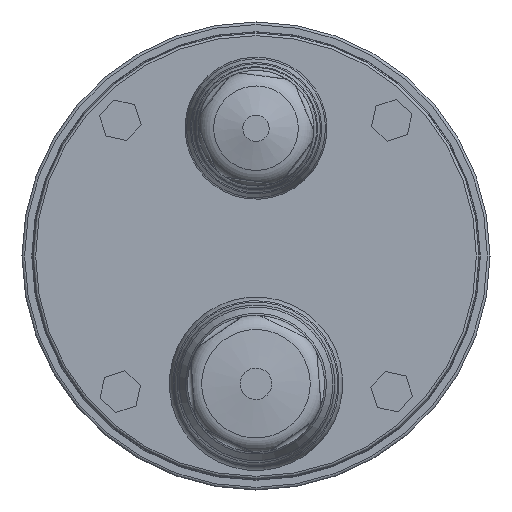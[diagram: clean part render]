
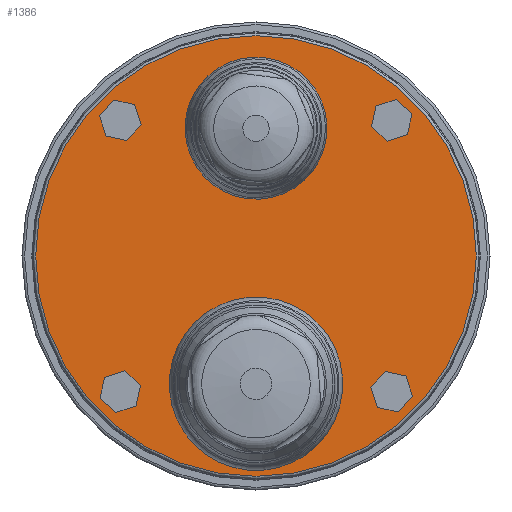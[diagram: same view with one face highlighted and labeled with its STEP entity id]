
A CAD part, front view. The second image highlights one B-rep face of the part: STEP entity #1386.
In plain terms, the highlighted planar face has unit normal (0, -1, 0).
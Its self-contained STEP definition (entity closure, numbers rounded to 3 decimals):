
#151=CARTESIAN_POINT('',(8.0,41.245,24.3));
#152=VERTEX_POINT('',#151);
#153=CARTESIAN_POINT('',(0.0,41.245,24.3));
#154=DIRECTION('',(0.0,1.0,0.0));
#155=DIRECTION('',(1.0,0.0,0.0));
#156=AXIS2_PLACEMENT_3D('',#153,#154,#155);
#157=CIRCLE('',#156,8.0);
#158=EDGE_CURVE('',#152,#152,#157,.T.);
#188=CARTESIAN_POINT('',(10.,41.245,-24.3));
#189=VERTEX_POINT('',#188);
#190=CARTESIAN_POINT('',(0.,41.245,-24.3));
#191=DIRECTION('',(0.0,1.0,0.0));
#192=DIRECTION('',(1.0,0.0,0.0));
#193=AXIS2_PLACEMENT_3D('',#190,#191,#192);
#194=CIRCLE('',#193,10.0);
#195=EDGE_CURVE('',#189,#189,#194,.T.);
#235=CARTESIAN_POINT('',(27.07,41.245,-29.649));
#236=VERTEX_POINT('',#235);
#243=CARTESIAN_POINT('',(29.765,41.245,-26.638));
#244=VERTEX_POINT('',#243);
#245=CARTESIAN_POINT('',(29.765,41.245,-26.638));
#246=DIRECTION('',(-0.667,0.0,-0.745));
#247=VECTOR('',#246,4.041);
#248=LINE('',#245,#247);
#249=EDGE_CURVE('',#244,#236,#248,.T.);
#273=CARTESIAN_POINT('',(23.114,41.245,-28.821));
#274=VERTEX_POINT('',#273);
#281=CARTESIAN_POINT('',(27.07,41.245,-29.649));
#282=DIRECTION('',(-0.979,0.0,0.205));
#283=VECTOR('',#282,4.041);
#284=LINE('',#281,#283);
#285=EDGE_CURVE('',#236,#274,#284,.T.);
#304=CARTESIAN_POINT('',(21.854,41.245,-24.981));
#305=VERTEX_POINT('',#304);
#312=CARTESIAN_POINT('',(23.114,41.245,-28.821));
#313=DIRECTION('',(-0.312,0.0,0.95));
#314=VECTOR('',#313,4.041);
#315=LINE('',#312,#314);
#316=EDGE_CURVE('',#274,#305,#315,.T.);
#335=CARTESIAN_POINT('',(24.549,41.245,-21.97));
#336=VERTEX_POINT('',#335);
#343=CARTESIAN_POINT('',(21.854,41.245,-24.981));
#344=DIRECTION('',(0.667,0.0,0.745));
#345=VECTOR('',#344,4.041);
#346=LINE('',#343,#345);
#347=EDGE_CURVE('',#305,#336,#346,.T.);
#366=CARTESIAN_POINT('',(28.505,41.245,-22.798));
#367=VERTEX_POINT('',#366);
#374=CARTESIAN_POINT('',(24.549,41.245,-21.97));
#375=DIRECTION('',(0.979,0.0,-0.205));
#376=VECTOR('',#375,4.041);
#377=LINE('',#374,#376);
#378=EDGE_CURVE('',#336,#367,#377,.T.);
#396=CARTESIAN_POINT('',(28.505,41.245,-22.798));
#397=DIRECTION('',(0.312,0.0,-0.95));
#398=VECTOR('',#397,4.041);
#399=LINE('',#396,#398);
#400=EDGE_CURVE('',#367,#244,#399,.T.);
#435=CARTESIAN_POINT('',(-29.649,41.245,-27.07));
#436=VERTEX_POINT('',#435);
#443=CARTESIAN_POINT('',(-26.638,41.245,-29.765));
#444=VERTEX_POINT('',#443);
#445=CARTESIAN_POINT('',(-26.638,41.245,-29.765));
#446=DIRECTION('',(-0.745,0.0,0.667));
#447=VECTOR('',#446,4.041);
#448=LINE('',#445,#447);
#449=EDGE_CURVE('',#444,#436,#448,.T.);
#473=CARTESIAN_POINT('',(-28.821,41.245,-23.114));
#474=VERTEX_POINT('',#473);
#481=CARTESIAN_POINT('',(-29.649,41.245,-27.07));
#482=DIRECTION('',(0.205,0.0,0.979));
#483=VECTOR('',#482,4.041);
#484=LINE('',#481,#483);
#485=EDGE_CURVE('',#436,#474,#484,.T.);
#504=CARTESIAN_POINT('',(-24.981,41.245,-21.854));
#505=VERTEX_POINT('',#504);
#512=CARTESIAN_POINT('',(-28.821,41.245,-23.114));
#513=DIRECTION('',(0.95,0.0,0.312));
#514=VECTOR('',#513,4.041);
#515=LINE('',#512,#514);
#516=EDGE_CURVE('',#474,#505,#515,.T.);
#535=CARTESIAN_POINT('',(-21.97,41.245,-24.549));
#536=VERTEX_POINT('',#535);
#543=CARTESIAN_POINT('',(-24.981,41.245,-21.854));
#544=DIRECTION('',(0.745,0.0,-0.667));
#545=VECTOR('',#544,4.041);
#546=LINE('',#543,#545);
#547=EDGE_CURVE('',#505,#536,#546,.T.);
#566=CARTESIAN_POINT('',(-22.798,41.245,-28.505));
#567=VERTEX_POINT('',#566);
#574=CARTESIAN_POINT('',(-21.97,41.245,-24.549));
#575=DIRECTION('',(-0.205,0.0,-0.979));
#576=VECTOR('',#575,4.041);
#577=LINE('',#574,#576);
#578=EDGE_CURVE('',#536,#567,#577,.T.);
#596=CARTESIAN_POINT('',(-22.798,41.245,-28.505));
#597=DIRECTION('',(-0.95,0.0,-0.312));
#598=VECTOR('',#597,4.041);
#599=LINE('',#596,#598);
#600=EDGE_CURVE('',#567,#444,#599,.T.);
#635=CARTESIAN_POINT('',(-27.07,41.245,29.649));
#636=VERTEX_POINT('',#635);
#643=CARTESIAN_POINT('',(-29.765,41.245,26.638));
#644=VERTEX_POINT('',#643);
#645=CARTESIAN_POINT('',(-29.765,41.245,26.638));
#646=DIRECTION('',(0.667,0.0,0.745));
#647=VECTOR('',#646,4.041);
#648=LINE('',#645,#647);
#649=EDGE_CURVE('',#644,#636,#648,.T.);
#673=CARTESIAN_POINT('',(-23.114,41.245,28.821));
#674=VERTEX_POINT('',#673);
#681=CARTESIAN_POINT('',(-27.07,41.245,29.649));
#682=DIRECTION('',(0.979,0.0,-0.205));
#683=VECTOR('',#682,4.041);
#684=LINE('',#681,#683);
#685=EDGE_CURVE('',#636,#674,#684,.T.);
#704=CARTESIAN_POINT('',(-21.854,41.245,24.981));
#705=VERTEX_POINT('',#704);
#712=CARTESIAN_POINT('',(-23.114,41.245,28.821));
#713=DIRECTION('',(0.312,0.0,-0.95));
#714=VECTOR('',#713,4.041);
#715=LINE('',#712,#714);
#716=EDGE_CURVE('',#674,#705,#715,.T.);
#735=CARTESIAN_POINT('',(-24.549,41.245,21.97));
#736=VERTEX_POINT('',#735);
#743=CARTESIAN_POINT('',(-21.854,41.245,24.981));
#744=DIRECTION('',(-0.667,0.0,-0.745));
#745=VECTOR('',#744,4.041);
#746=LINE('',#743,#745);
#747=EDGE_CURVE('',#705,#736,#746,.T.);
#766=CARTESIAN_POINT('',(-28.505,41.245,22.798));
#767=VERTEX_POINT('',#766);
#774=CARTESIAN_POINT('',(-24.549,41.245,21.97));
#775=DIRECTION('',(-0.979,0.0,0.205));
#776=VECTOR('',#775,4.041);
#777=LINE('',#774,#776);
#778=EDGE_CURVE('',#736,#767,#777,.T.);
#796=CARTESIAN_POINT('',(-28.505,41.245,22.798));
#797=DIRECTION('',(-0.312,0.0,0.95));
#798=VECTOR('',#797,4.041);
#799=LINE('',#796,#798);
#800=EDGE_CURVE('',#767,#644,#799,.T.);
#835=CARTESIAN_POINT('',(29.649,41.245,27.07));
#836=VERTEX_POINT('',#835);
#843=CARTESIAN_POINT('',(26.638,41.245,29.765));
#844=VERTEX_POINT('',#843);
#845=CARTESIAN_POINT('',(26.638,41.245,29.765));
#846=DIRECTION('',(0.745,0.0,-0.667));
#847=VECTOR('',#846,4.041);
#848=LINE('',#845,#847);
#849=EDGE_CURVE('',#844,#836,#848,.T.);
#873=CARTESIAN_POINT('',(28.821,41.245,23.114));
#874=VERTEX_POINT('',#873);
#881=CARTESIAN_POINT('',(29.649,41.245,27.07));
#882=DIRECTION('',(-0.205,0.0,-0.979));
#883=VECTOR('',#882,4.041);
#884=LINE('',#881,#883);
#885=EDGE_CURVE('',#836,#874,#884,.T.);
#904=CARTESIAN_POINT('',(24.981,41.245,21.854));
#905=VERTEX_POINT('',#904);
#912=CARTESIAN_POINT('',(28.821,41.245,23.114));
#913=DIRECTION('',(-0.95,0.0,-0.312));
#914=VECTOR('',#913,4.041);
#915=LINE('',#912,#914);
#916=EDGE_CURVE('',#874,#905,#915,.T.);
#935=CARTESIAN_POINT('',(21.97,41.245,24.549));
#936=VERTEX_POINT('',#935);
#943=CARTESIAN_POINT('',(24.981,41.245,21.854));
#944=DIRECTION('',(-0.745,0.0,0.667));
#945=VECTOR('',#944,4.041);
#946=LINE('',#943,#945);
#947=EDGE_CURVE('',#905,#936,#946,.T.);
#966=CARTESIAN_POINT('',(22.798,41.245,28.505));
#967=VERTEX_POINT('',#966);
#974=CARTESIAN_POINT('',(21.97,41.245,24.549));
#975=DIRECTION('',(0.205,0.0,0.979));
#976=VECTOR('',#975,4.041);
#977=LINE('',#974,#976);
#978=EDGE_CURVE('',#936,#967,#977,.T.);
#996=CARTESIAN_POINT('',(22.798,41.245,28.505));
#997=DIRECTION('',(0.95,0.0,0.312));
#998=VECTOR('',#997,4.041);
#999=LINE('',#996,#998);
#1000=EDGE_CURVE('',#967,#844,#999,.T.);
#1325=CARTESIAN_POINT('',(41.9,41.245,0.0));
#1326=VERTEX_POINT('',#1325);
#1327=CARTESIAN_POINT('',(0.0,41.245,0.0));
#1328=DIRECTION('',(0.0,-1.0,0.0));
#1329=DIRECTION('',(1.0,0.0,0.0));
#1330=AXIS2_PLACEMENT_3D('',#1327,#1328,#1329);
#1331=CIRCLE('',#1330,41.9);
#1332=EDGE_CURVE('',#1326,#1326,#1331,.T.);
#1340=CARTESIAN_POINT('',(20.95,41.245,0.0));
#1341=DIRECTION('',(0.0,-1.0,0.0));
#1342=DIRECTION('',(0.0,0.0,-1.0));
#1343=AXIS2_PLACEMENT_3D('',#1340,#1341,#1342);
#1344=PLANE('',#1343);
#1345=ORIENTED_EDGE('',*,*,#1332,.T.);
#1346=EDGE_LOOP('',(#1345));
#1347=FACE_OUTER_BOUND('',#1346,.T.);
#1348=ORIENTED_EDGE('',*,*,#158,.T.);
#1349=EDGE_LOOP('',(#1348));
#1350=FACE_BOUND('',#1349,.T.);
#1351=ORIENTED_EDGE('',*,*,#195,.T.);
#1352=EDGE_LOOP('',(#1351));
#1353=FACE_BOUND('',#1352,.T.);
#1354=ORIENTED_EDGE('',*,*,#249,.T.);
#1355=ORIENTED_EDGE('',*,*,#285,.T.);
#1356=ORIENTED_EDGE('',*,*,#316,.T.);
#1357=ORIENTED_EDGE('',*,*,#347,.T.);
#1358=ORIENTED_EDGE('',*,*,#378,.T.);
#1359=ORIENTED_EDGE('',*,*,#400,.T.);
#1360=EDGE_LOOP('',(#1354,#1355,#1356,#1357,#1358,#1359));
#1361=FACE_BOUND('',#1360,.T.);
#1362=ORIENTED_EDGE('',*,*,#449,.T.);
#1363=ORIENTED_EDGE('',*,*,#485,.T.);
#1364=ORIENTED_EDGE('',*,*,#516,.T.);
#1365=ORIENTED_EDGE('',*,*,#547,.T.);
#1366=ORIENTED_EDGE('',*,*,#578,.T.);
#1367=ORIENTED_EDGE('',*,*,#600,.T.);
#1368=EDGE_LOOP('',(#1362,#1363,#1364,#1365,#1366,#1367));
#1369=FACE_BOUND('',#1368,.T.);
#1370=ORIENTED_EDGE('',*,*,#649,.T.);
#1371=ORIENTED_EDGE('',*,*,#685,.T.);
#1372=ORIENTED_EDGE('',*,*,#716,.T.);
#1373=ORIENTED_EDGE('',*,*,#747,.T.);
#1374=ORIENTED_EDGE('',*,*,#778,.T.);
#1375=ORIENTED_EDGE('',*,*,#800,.T.);
#1376=EDGE_LOOP('',(#1370,#1371,#1372,#1373,#1374,#1375));
#1377=FACE_BOUND('',#1376,.T.);
#1378=ORIENTED_EDGE('',*,*,#849,.T.);
#1379=ORIENTED_EDGE('',*,*,#885,.T.);
#1380=ORIENTED_EDGE('',*,*,#916,.T.);
#1381=ORIENTED_EDGE('',*,*,#947,.T.);
#1382=ORIENTED_EDGE('',*,*,#978,.T.);
#1383=ORIENTED_EDGE('',*,*,#1000,.T.);
#1384=EDGE_LOOP('',(#1378,#1379,#1380,#1381,#1382,#1383));
#1385=FACE_BOUND('',#1384,.T.);
#1386=ADVANCED_FACE('',(#1347,#1350,#1353,#1361,#1369,#1377,#1385),#1344,.T.);
